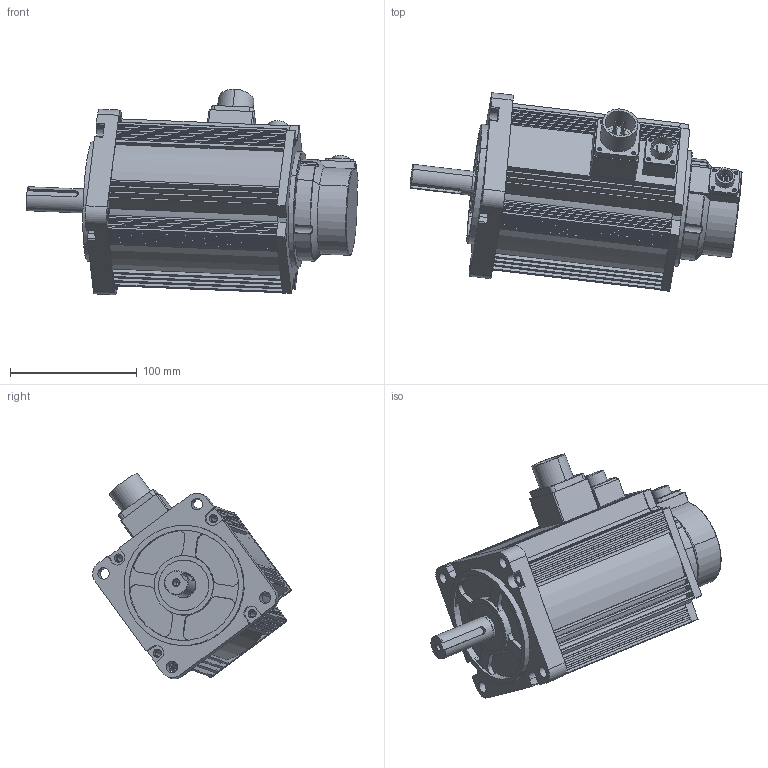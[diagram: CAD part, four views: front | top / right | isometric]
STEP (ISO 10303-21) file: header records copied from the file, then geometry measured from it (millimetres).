
FILE_DESCRIPTION (( 'STEP AP203' ), '1' );
FILE_NAME ('110A-064-Z.STEP', '2024-09-10T11:52:16', ( '' ), ( '' ), 'SwSTEP 2.0', 'SolidWorks 2018', '' );
FILE_SCHEMA (( 'CONFIG_CONTROL_DESIGN' ));
Length unit declared in the file: millimetre
Products named in the file (13): SC-CMV1-R10P-E; 110A4.2N梓饜蛌粣; 18-10; 錨璃3; 110A-064-Z; 110A綴欶; 蚐猾; 諉盄釱; 惕掅脣芛1; 綴傷裔; 惕掅脣釱; 儂褲惕掅; ヶ傷裔
Assembly tree (12 placements, depth 2):
  110A-064-Z
    ヶ傷裔
    綴傷裔
    諉盄釱
    110A綴欶
    110A4.2N梓饜蛌粣
    儂褲惕掅
    惕掅脣芛1
    惕掅脣釱
    錨璃3
    18-10
    SC-CMV1-R10P-E
    蚐猾
Bounding box: 262.01 x 156.75 x 162.19 mm (x, y, z)
Volume: 670631.9 mm3; surface area: 308988.4 mm2
Topology: 12 solids, 12 shells, 847 faces, 2229 edges, 1445 vertices
Faces by surface type: cylinder 388, plane 368, cone 48, torus 22, sphere 16, bspline 5
Entity records: 28815 total; most frequent: CARTESIAN_POINT 5806, DIRECTION 4692, ORIENTED_EDGE 4394, EDGE_CURVE 2197, AXIS2_PLACEMENT_3D 1714, VERTEX_POINT 1437, VECTOR 1264, LINE 1264
